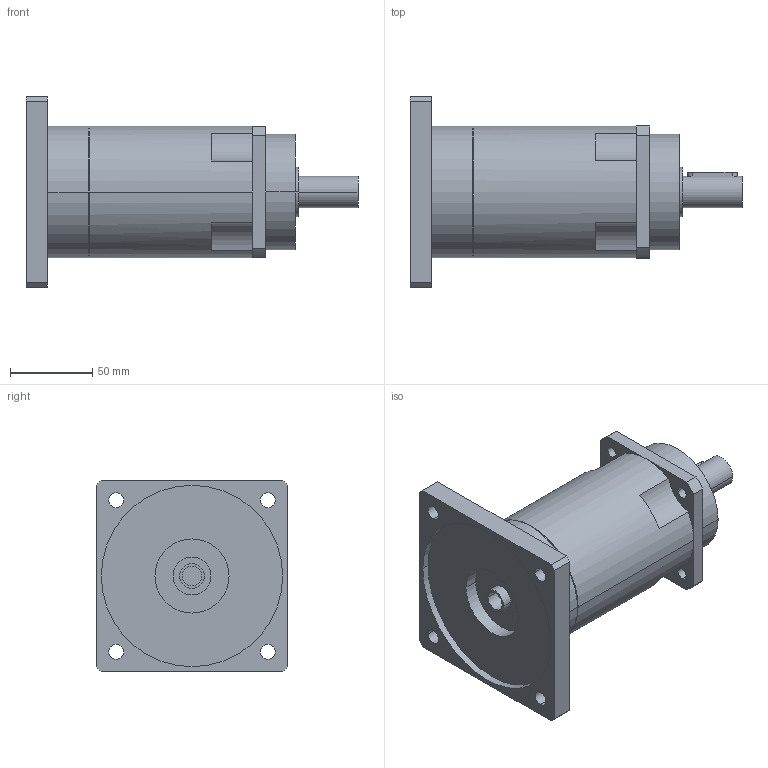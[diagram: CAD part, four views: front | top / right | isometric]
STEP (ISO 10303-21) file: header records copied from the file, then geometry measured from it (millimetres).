
FILE_DESCRIPTION(('CoCreate Modeling STEP Export'),'2;1');
FILE_NAME('GPR100_ig-48-64-80-100-120-144-180-216_19_B5_12_P08.stp','2014-08-26T11:53:55',(''),(''),'CoCreate Modeling STEP processor for AP214 (Solid Model)','CoCreate Modeling 16.00C 25-Feb-2009 (C) Parametric Technology GmbH','');
FILE_SCHEMA(('AUTOMOTIVE_DESIGN { 1 0 10303 214 1 1 1 1 }'));
Length unit declared in the file: millimetre
Products named in the file (2): GPR100_ig-48-64-80-100-120-144-180-216_19_B5_12_P08
Assembly tree (1 placements, depth 2):
  GPR100_ig-48-64-80-100-120-144-180-216_19_B5_12_P08
    GPR100_ig-48-64-80-100-120-144-180-216_19_B5_12_P08
Bounding box: 201.4 x 116 x 116 mm (x, y, z)
Volume: 861082.7 mm3; surface area: 82028.5 mm2
Topology: 1 solids, 1 shells, 89 faces, 245 edges, 167 vertices
Faces by surface type: cylinder 52, plane 31, cone 6
Entity records: 2602 total; most frequent: ORIENTED_EDGE 486, CARTESIAN_POINT 472, DIRECTION 386, EDGE_CURVE 243, VERTEX_POINT 167, AXIS2_PLACEMENT_3D 145, EDGE_LOOP 116, VECTOR 96
